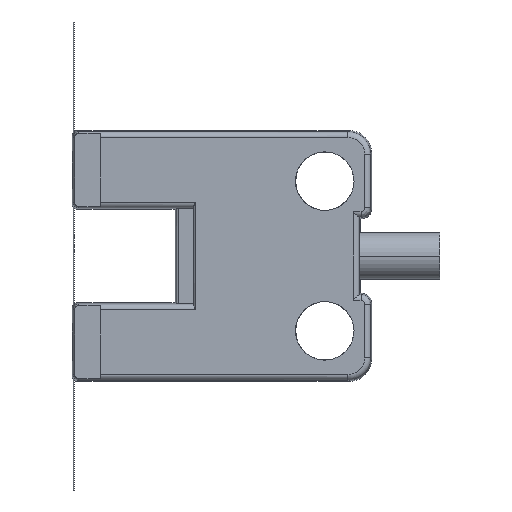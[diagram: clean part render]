
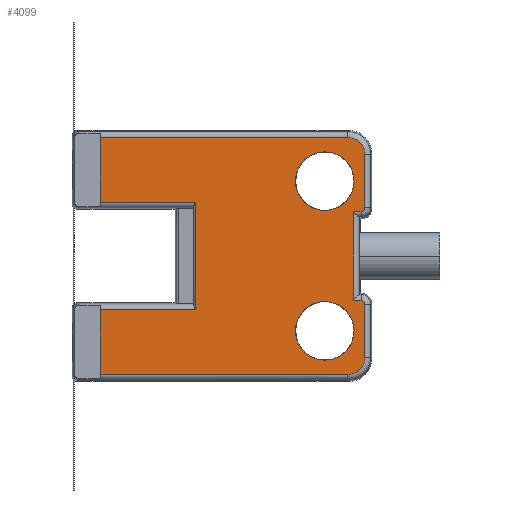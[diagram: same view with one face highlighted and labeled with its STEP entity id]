
A CAD part, front view. The second image highlights one B-rep face of the part: STEP entity #4099.
In plain terms, the highlighted planar face has unit normal (0, -1, 0).
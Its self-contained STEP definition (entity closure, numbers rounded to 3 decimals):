
#1102=DIRECTION('',(0.,0.,1.));
#1103=VECTOR('',#1102,3.471);
#1104=CARTESIAN_POINT('',(-14.5,-6.,-6.335));
#1105=LINE('',#1104,#1103);
#1106=DIRECTION('',(0.,0.,1.));
#1107=VECTOR('',#1106,3.471);
#1108=CARTESIAN_POINT('',(-14.5,-6.,2.865));
#1109=LINE('',#1108,#1107);
#1110=CARTESIAN_POINT('',(-1.265,-6.,
5.435));
#1111=DIRECTION('',(0.,1.,0.));
#1112=DIRECTION('',(0.,0.,1.));
#1113=AXIS2_PLACEMENT_3D('',#1110,#1111,#1112);
#1115=CARTESIAN_POINT('',(-0.565,-6.,
2.565));
#1116=DIRECTION('',(0.,1.,0.));
#1117=DIRECTION('',(1.,0.,0.));
#1118=AXIS2_PLACEMENT_3D('',#1115,#1116,#1117);
#1120=CARTESIAN_POINT('',(-0.565,-6.,
-2.565));
#1121=DIRECTION('',(0.,1.,0.));
#1122=DIRECTION('',(0.,0.,1.));
#1123=AXIS2_PLACEMENT_3D('',#1120,#1121,#1122);
#1125=CARTESIAN_POINT('',(-1.265,-6.,
-5.435));
#1126=DIRECTION('',(0.,1.,0.));
#1127=DIRECTION('',(1.,0.,0.));
#1128=AXIS2_PLACEMENT_3D('',#1125,#1126,#1127);
#1130=CARTESIAN_POINT('',(-2.5,-6.,-4.));
#1131=DIRECTION('',(0.,-1.,0.));
#1132=DIRECTION('',(-1.,0.,0.));
#1133=AXIS2_PLACEMENT_3D('',#1130,#1131,#1132);
#1135=CARTESIAN_POINT('',(-2.5,-6.,-4.));
#1136=DIRECTION('',(0.,-1.,0.));
#1137=DIRECTION('',(1.,0.,0.));
#1138=AXIS2_PLACEMENT_3D('',#1135,#1136,#1137);
#1140=CARTESIAN_POINT('',(-2.5,-6.,4.));
#1141=DIRECTION('',(0.,-1.,0.));
#1142=DIRECTION('',(-1.,0.,0.));
#1143=AXIS2_PLACEMENT_3D('',#1140,#1141,#1142);
#1145=CARTESIAN_POINT('',(-2.5,-6.,4.));
#1146=DIRECTION('',(0.,-1.,0.));
#1147=DIRECTION('',(1.,0.,0.));
#1148=AXIS2_PLACEMENT_3D('',#1145,#1146,#1147);
#1160=DIRECTION('',(1.,0.,0.));
#1161=VECTOR('',#1160,13.235);
#1162=CARTESIAN_POINT('',(-14.5,-6.,-6.335));
#1163=LINE('',#1162,#1161);
#1182=DIRECTION('',(0.,0.,1.));
#1183=VECTOR('',#1182,2.871);
#1184=CARTESIAN_POINT('',(-0.365,-6.,
-5.435));
#1185=LINE('',#1184,#1183);
#1323=DIRECTION('',(-1.,0.,0.));
#1324=VECTOR('',#1323,5.1);
#1325=CARTESIAN_POINT('',(-9.4,-6.,-2.865));
#1326=LINE('',#1325,#1324);
#1337=DIRECTION('',(0.,0.,-1.));
#1338=VECTOR('',#1337,5.729);
#1339=CARTESIAN_POINT('',(-9.4,-6.,2.865));
#1340=LINE('',#1339,#1338);
#1361=DIRECTION('',(1.,0.,0.));
#1362=VECTOR('',#1361,5.1);
#1363=CARTESIAN_POINT('',(-14.5,-6.,2.865));
#1364=LINE('',#1363,#1362);
#1405=DIRECTION('',(-1.,0.,0.));
#1406=VECTOR('',#1405,13.235);
#1407=CARTESIAN_POINT('',(-1.265,-6.,
6.335));
#1408=LINE('',#1407,#1406);
#1510=DIRECTION('',(0.,0.,1.));
#1511=VECTOR('',#1510,2.871);
#1512=CARTESIAN_POINT('',(-0.365,-6.,
2.565));
#1513=LINE('',#1512,#1511);
#1541=DIRECTION('',(1.,0.,0.));
#1542=VECTOR('',#1541,0.4);
#1543=CARTESIAN_POINT('',(-0.965,-6.,2.365));
#1544=LINE('',#1543,#1542);
#1578=DIRECTION('',(0.,0.,1.));
#1579=VECTOR('',#1578,4.729);
#1580=CARTESIAN_POINT('',(-0.965,-6.,-2.365));
#1581=LINE('',#1580,#1579);
#1591=DIRECTION('',(-1.,0.,0.));
#1592=VECTOR('',#1591,0.4);
#1593=CARTESIAN_POINT('',(-0.565,-6.,
-2.365));
#1594=LINE('',#1593,#1592);
#2102=CARTESIAN_POINT('',(-0.565,-6.,
-2.365));
#2103=CARTESIAN_POINT('',(-0.365,-6.,
-2.565));
#2104=VERTEX_POINT('',#2102);
#2105=VERTEX_POINT('',#2103);
#2106=CARTESIAN_POINT('',(-14.5,-6.,-6.335));
#2107=CARTESIAN_POINT('',(-14.5,-6.,-2.865));
#2108=VERTEX_POINT('',#2106);
#2109=VERTEX_POINT('',#2107);
#2110=CARTESIAN_POINT('',(-9.4,-6.,-2.865));
#2111=VERTEX_POINT('',#2110);
#2112=CARTESIAN_POINT('',(-9.4,-6.,2.865));
#2113=VERTEX_POINT('',#2112);
#2114=CARTESIAN_POINT('',(-14.5,-6.,2.865));
#2115=VERTEX_POINT('',#2114);
#2116=CARTESIAN_POINT('',(-14.5,-6.,6.335));
#2117=VERTEX_POINT('',#2116);
#2118=CARTESIAN_POINT('',(-1.265,-6.,
6.335));
#2119=VERTEX_POINT('',#2118);
#2120=CARTESIAN_POINT('',(-0.365,-6.,
5.435));
#2121=VERTEX_POINT('',#2120);
#2122=CARTESIAN_POINT('',(-0.365,-6.,
2.565));
#2123=VERTEX_POINT('',#2122);
#2124=CARTESIAN_POINT('',(-0.565,-6.,
2.365));
#2125=VERTEX_POINT('',#2124);
#2126=CARTESIAN_POINT('',(-0.965,-6.,2.365));
#2127=VERTEX_POINT('',#2126);
#2128=CARTESIAN_POINT('',(-0.965,-6.,-2.365));
#2129=VERTEX_POINT('',#2128);
#2130=CARTESIAN_POINT('',(-0.365,-6.,
-5.435));
#2131=VERTEX_POINT('',#2130);
#2132=CARTESIAN_POINT('',(-1.265,-6.,
-6.335));
#2133=VERTEX_POINT('',#2132);
#2134=CARTESIAN_POINT('',(-4.063,-6.,-4.));
#2135=CARTESIAN_POINT('',(-0.937,-6.,-4.));
#2136=VERTEX_POINT('',#2134);
#2137=VERTEX_POINT('',#2135);
#2138=CARTESIAN_POINT('',(-4.063,-6.,4.));
#2139=CARTESIAN_POINT('',(-0.937,-6.,4.));
#2140=VERTEX_POINT('',#2138);
#2141=VERTEX_POINT('',#2139);
#4049=CARTESIAN_POINT('',(0.,-6.,0.));
#4050=DIRECTION('',(0.,-1.,0.));
#4051=DIRECTION('',(1.,0.,0.));
#4052=AXIS2_PLACEMENT_3D('',#4049,#4050,#4051);
#4053=PLANE('',#4052);
#4055=ORIENTED_EDGE('',*,*,#4054,.T.);
#4057=ORIENTED_EDGE('',*,*,#4056,.F.);
#4059=ORIENTED_EDGE('',*,*,#4058,.F.);
#4061=ORIENTED_EDGE('',*,*,#4060,.F.);
#4063=ORIENTED_EDGE('',*,*,#4062,.T.);
#4065=ORIENTED_EDGE('',*,*,#4064,.F.);
#4067=ORIENTED_EDGE('',*,*,#4066,.T.);
#4069=ORIENTED_EDGE('',*,*,#4068,.F.);
#4071=ORIENTED_EDGE('',*,*,#4070,.T.);
#4073=ORIENTED_EDGE('',*,*,#4072,.F.);
#4075=ORIENTED_EDGE('',*,*,#4074,.F.);
#4077=ORIENTED_EDGE('',*,*,#4076,.F.);
#4078=ORIENTED_EDGE('',*,*,#4039,.T.);
#4080=ORIENTED_EDGE('',*,*,#4079,.F.);
#4082=ORIENTED_EDGE('',*,*,#4081,.T.);
#4084=ORIENTED_EDGE('',*,*,#4083,.F.);
#4085=EDGE_LOOP('',(#4055,#4057,#4059,#4061,#4063,#4065,#4067,#4069,#4071,#4073,
#4075,#4077,#4078,#4080,#4082,#4084));
#4086=FACE_OUTER_BOUND('',#4085,.F.);
#4088=ORIENTED_EDGE('',*,*,#4087,.T.);
#4090=ORIENTED_EDGE('',*,*,#4089,.T.);
#4091=EDGE_LOOP('',(#4088,#4090));
#4092=FACE_BOUND('',#4091,.F.);
#4094=ORIENTED_EDGE('',*,*,#4093,.T.);
#4096=ORIENTED_EDGE('',*,*,#4095,.T.);
#4097=EDGE_LOOP('',(#4094,#4096));
#4098=FACE_BOUND('',#4097,.F.);
#1114=CIRCLE('',#1113,0.9);
#1119=CIRCLE('',#1118,0.2);
#1124=CIRCLE('',#1123,0.2);
#1129=CIRCLE('',#1128,0.9);
#1134=CIRCLE('',#1133,1.563);
#1139=CIRCLE('',#1138,1.563);
#1144=CIRCLE('',#1143,1.563);
#1149=CIRCLE('',#1148,1.563);
#4039=EDGE_CURVE('',#2104,#2105,#1124,.T.);
#4054=EDGE_CURVE('',#2108,#2109,#1105,.T.);
#4056=EDGE_CURVE('',#2111,#2109,#1326,.T.);
#4058=EDGE_CURVE('',#2113,#2111,#1340,.T.);
#4060=EDGE_CURVE('',#2115,#2113,#1364,.T.);
#4062=EDGE_CURVE('',#2115,#2117,#1109,.T.);
#4064=EDGE_CURVE('',#2119,#2117,#1408,.T.);
#4066=EDGE_CURVE('',#2119,#2121,#1114,.T.);
#4068=EDGE_CURVE('',#2123,#2121,#1513,.T.);
#4070=EDGE_CURVE('',#2123,#2125,#1119,.T.);
#4072=EDGE_CURVE('',#2127,#2125,#1544,.T.);
#4074=EDGE_CURVE('',#2129,#2127,#1581,.T.);
#4076=EDGE_CURVE('',#2104,#2129,#1594,.T.);
#4079=EDGE_CURVE('',#2131,#2105,#1185,.T.);
#4081=EDGE_CURVE('',#2131,#2133,#1129,.T.);
#4083=EDGE_CURVE('',#2108,#2133,#1163,.T.);
#4087=EDGE_CURVE('',#2136,#2137,#1134,.T.);
#4089=EDGE_CURVE('',#2137,#2136,#1139,.T.);
#4093=EDGE_CURVE('',#2140,#2141,#1144,.T.);
#4095=EDGE_CURVE('',#2141,#2140,#1149,.T.);
#4099=ADVANCED_FACE('',(#4086,#4092,#4098),#4053,.T.);
